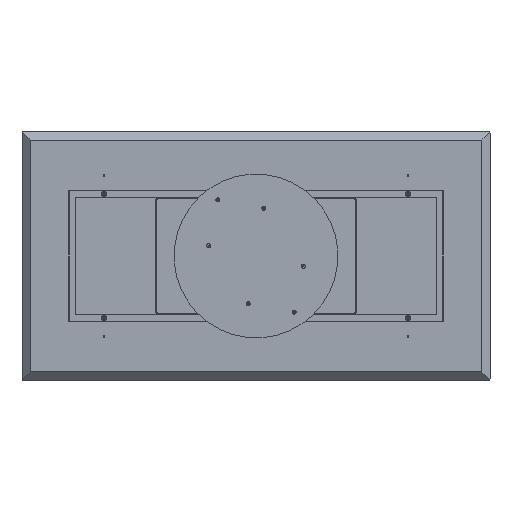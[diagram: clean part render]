
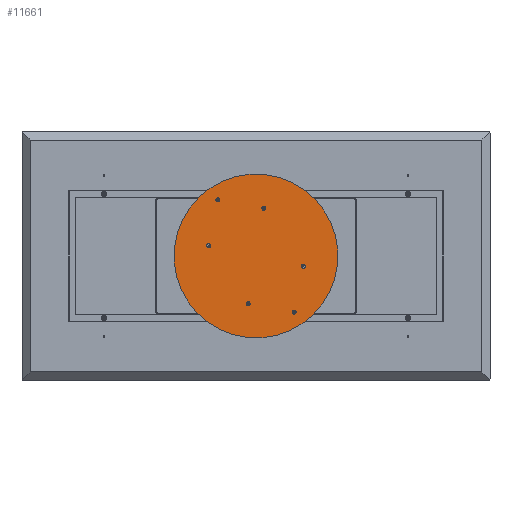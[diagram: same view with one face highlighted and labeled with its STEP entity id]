
A CAD part, front view. The second image highlights one B-rep face of the part: STEP entity #11661.
In plain terms, the highlighted planar face has unit normal (0, -1, 0).
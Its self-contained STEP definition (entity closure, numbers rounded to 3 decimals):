
#40 = EDGE_CURVE ( 'NONE', #15754, #18380, #775, .T. ) ;
#171 = VERTEX_POINT ( 'NONE', #12343 ) ;
#199 = CIRCLE ( 'NONE', #6948, 8.65 ) ;
#293 = AXIS2_PLACEMENT_3D ( 'NONE', #14947, #7742, #20213 ) ;
#392 = DIRECTION ( 'NONE',  ( 0., 0., -1. ) ) ;
#427 = CARTESIAN_POINT ( 'NONE',  ( 0., 0., -350. ) ) ;
#715 = CIRCLE ( 'NONE', #13502, 8.65 ) ;
#775 = CIRCLE ( 'NONE', #22922, 8.65 ) ;
#1177 = AXIS2_PLACEMENT_3D ( 'NONE', #17048, #20440, #6066 ) ;
#1255 = CARTESIAN_POINT ( 'NONE',  ( 150., 0., -142.5 ) ) ;
#1740 = CARTESIAN_POINT ( 'NONE',  ( 150., 0., 151.15 ) ) ;
#1793 = EDGE_CURVE ( 'NONE', #8214, #8496, #8999, .T. ) ;
#1918 = VERTEX_POINT ( 'NONE', #19746 ) ;
#2692 = CARTESIAN_POINT ( 'NONE',  ( 150., 0., 133.85 ) ) ;
#2752 = ORIENTED_EDGE ( 'NONE', *, *, #15379, .F. ) ;
#2958 = EDGE_CURVE ( 'NONE', #18380, #15754, #12445, .T. ) ;
#3081 = EDGE_CURVE ( 'NONE', #14695, #19115, #7505, .T. ) ;
#3120 = DIRECTION ( 'NONE',  ( 0., 1., 0. ) ) ;
#3240 = EDGE_CURVE ( 'NONE', #8496, #8214, #14356, .T. ) ;
#3368 = ORIENTED_EDGE ( 'NONE', *, *, #3081, .F. ) ;
#3788 = CARTESIAN_POINT ( 'NONE',  ( -290., 0., 0. ) ) ;
#3811 = DIRECTION ( 'NONE',  ( 0., 0., -1. ) ) ;
#4143 = VERTEX_POINT ( 'NONE', #13857 ) ;
#4350 = EDGE_LOOP ( 'NONE', ( #14956, #19761 ) ) ;
#4399 = CARTESIAN_POINT ( 'NONE',  ( 0., 0., 0. ) ) ;
#4909 = VERTEX_POINT ( 'NONE', #13005 ) ;
#5063 = AXIS2_PLACEMENT_3D ( 'NONE', #8912, #10468, #19532 ) ;
#5520 = DIRECTION ( 'NONE',  ( 0., -1., 0. ) ) ;
#5680 = EDGE_CURVE ( 'NONE', #4143, #15604, #15214, .T. ) ;
#5731 = CARTESIAN_POINT ( 'NONE',  ( -150., 0., -142.5 ) ) ;
#5799 = AXIS2_PLACEMENT_3D ( 'NONE', #7995, #20366, #16615 ) ;
#5816 = CARTESIAN_POINT ( 'NONE',  ( -150., 0., 142.5 ) ) ;
#6066 = DIRECTION ( 'NONE',  ( 0., 0., -1. ) ) ;
#6497 = ORIENTED_EDGE ( 'NONE', *, *, #21303, .F. ) ;
#6505 = VERTEX_POINT ( 'NONE', #7099 ) ;
#6521 = AXIS2_PLACEMENT_3D ( 'NONE', #3788, #20168, #392 ) ;
#6587 = CIRCLE ( 'NONE', #23139, 8.65 ) ;
#6655 = DIRECTION ( 'NONE',  ( 0., 0., -1. ) ) ;
#6680 = CARTESIAN_POINT ( 'NONE',  ( -290., 0., -8.65 ) ) ;
#6911 = EDGE_LOOP ( 'NONE', ( #22819, #11421 ) ) ;
#6948 = AXIS2_PLACEMENT_3D ( 'NONE', #5731, #9400, #7633 ) ;
#7099 = CARTESIAN_POINT ( 'NONE',  ( -150., 0., -133.85 ) ) ;
#7119 = CARTESIAN_POINT ( 'NONE',  ( 0., 0., 0. ) ) ;
#7155 = EDGE_LOOP ( 'NONE', ( #2752, #3368 ) ) ;
#7305 = DIRECTION ( 'NONE',  ( 0., 0., -1. ) ) ;
#7505 = CIRCLE ( 'NONE', #8609, 8.65 ) ;
#7633 = DIRECTION ( 'NONE',  ( 0., 0., -1. ) ) ;
#7742 = DIRECTION ( 'NONE',  ( 0., -1., 0. ) ) ;
#7995 = CARTESIAN_POINT ( 'NONE',  ( 290., 0., 0. ) ) ;
#8214 = VERTEX_POINT ( 'NONE', #427 ) ;
#8220 = DIRECTION ( 'NONE',  ( 0., 0., -1. ) ) ;
#8262 = EDGE_LOOP ( 'NONE', ( #20538, #15931 ) ) ;
#8406 = ORIENTED_EDGE ( 'NONE', *, *, #18573, .F. ) ;
#8421 = DIRECTION ( 'NONE',  ( 0., -1., 0. ) ) ;
#8496 = VERTEX_POINT ( 'NONE', #19057 ) ;
#8609 = AXIS2_PLACEMENT_3D ( 'NONE', #5816, #11255, #3811 ) ;
#8796 = DIRECTION ( 'NONE',  ( 0., 0., -1. ) ) ;
#8874 = FACE_BOUND ( 'NONE', #4350, .T. ) ;
#8912 = CARTESIAN_POINT ( 'NONE',  ( 150., 0., -142.5 ) ) ;
#8999 = CIRCLE ( 'NONE', #18804, 350. ) ;
#9361 = CARTESIAN_POINT ( 'NONE',  ( -150., 0., -151.15 ) ) ;
#9400 = DIRECTION ( 'NONE',  ( 0., -1., 0. ) ) ;
#9710 = DIRECTION ( 'NONE',  ( 0., 0., 1. ) ) ;
#9891 = DIRECTION ( 'NONE',  ( 0., -1., 0. ) ) ;
#9960 = CIRCLE ( 'NONE', #5799, 8.65 ) ;
#10316 = FACE_BOUND ( 'NONE', #8262, .T. ) ;
#10468 = DIRECTION ( 'NONE',  ( 0., -1., 0. ) ) ;
#11255 = DIRECTION ( 'NONE',  ( 0., -1., 0. ) ) ;
#11421 = ORIENTED_EDGE ( 'NONE', *, *, #5680, .F. ) ;
#11661 = ADVANCED_FACE ( 'NONE', ( #21604, #14204, #17858, #8874, #10316, #12547, #15963 ), #12089, .F. ) ;
#11959 = CARTESIAN_POINT ( 'NONE',  ( 290., 0., 0. ) ) ;
#12071 = DIRECTION ( 'NONE',  ( 0., -1., 0. ) ) ;
#12089 = PLANE ( 'NONE',  #19714 ) ;
#12184 = AXIS2_PLACEMENT_3D ( 'NONE', #19791, #5520, #7305 ) ;
#12332 = EDGE_CURVE ( 'NONE', #4909, #21975, #9960, .T. ) ;
#12343 = CARTESIAN_POINT ( 'NONE',  ( 150., 0., -151.15 ) ) ;
#12445 = CIRCLE ( 'NONE', #1177, 8.65 ) ;
#12516 = CARTESIAN_POINT ( 'NONE',  ( 290., 0., -8.65 ) ) ;
#12547 = FACE_BOUND ( 'NONE', #7155, .T. ) ;
#13005 = CARTESIAN_POINT ( 'NONE',  ( 290., 0., 8.65 ) ) ;
#13263 = EDGE_CURVE ( 'NONE', #21975, #4909, #6587, .T. ) ;
#13488 = DIRECTION ( 'NONE',  ( 0., 1., 0. ) ) ;
#13502 = AXIS2_PLACEMENT_3D ( 'NONE', #14409, #9891, #8220 ) ;
#13518 = AXIS2_PLACEMENT_3D ( 'NONE', #1255, #8421, #6655 ) ;
#13727 = CIRCLE ( 'NONE', #12184, 8.65 ) ;
#13857 = CARTESIAN_POINT ( 'NONE',  ( -290., 0., 8.65 ) ) ;
#14130 = EDGE_CURVE ( 'NONE', #1918, #171, #18024, .T. ) ;
#14204 = FACE_BOUND ( 'NONE', #22389, .T. ) ;
#14344 = VERTEX_POINT ( 'NONE', #9361 ) ;
#14356 = CIRCLE ( 'NONE', #21108, 350. ) ;
#14409 = CARTESIAN_POINT ( 'NONE',  ( -290., 0., 0. ) ) ;
#14695 = VERTEX_POINT ( 'NONE', #19018 ) ;
#14947 = CARTESIAN_POINT ( 'NONE',  ( -150., 0., -142.5 ) ) ;
#14956 = ORIENTED_EDGE ( 'NONE', *, *, #13263, .F. ) ;
#15214 = CIRCLE ( 'NONE', #6521, 8.65 ) ;
#15278 = CIRCLE ( 'NONE', #5063, 8.65 ) ;
#15379 = EDGE_CURVE ( 'NONE', #19115, #14695, #13727, .T. ) ;
#15604 = VERTEX_POINT ( 'NONE', #6680 ) ;
#15754 = VERTEX_POINT ( 'NONE', #1740 ) ;
#15931 = ORIENTED_EDGE ( 'NONE', *, *, #40, .F. ) ;
#15963 = FACE_OUTER_BOUND ( 'NONE', #19106, .T. ) ;
#16615 = DIRECTION ( 'NONE',  ( 0., 0., -1. ) ) ;
#16874 = CARTESIAN_POINT ( 'NONE',  ( -150., 0., 133.85 ) ) ;
#17046 = CARTESIAN_POINT ( 'NONE',  ( 150., 0., 142.5 ) ) ;
#17048 = CARTESIAN_POINT ( 'NONE',  ( 150., 0., 142.5 ) ) ;
#17200 = ORIENTED_EDGE ( 'NONE', *, *, #14130, .F. ) ;
#17770 = DIRECTION ( 'NONE',  ( 0., -1., 0. ) ) ;
#17858 = FACE_BOUND ( 'NONE', #19579, .T. ) ;
#18024 = CIRCLE ( 'NONE', #13518, 8.65 ) ;
#18380 = VERTEX_POINT ( 'NONE', #2692 ) ;
#18464 = EDGE_CURVE ( 'NONE', #171, #1918, #15278, .T. ) ;
#18573 = EDGE_CURVE ( 'NONE', #6505, #14344, #199, .T. ) ;
#18804 = AXIS2_PLACEMENT_3D ( 'NONE', #20686, #3120, #19168 ) ;
#19018 = CARTESIAN_POINT ( 'NONE',  ( -150., 0., 151.15 ) ) ;
#19057 = CARTESIAN_POINT ( 'NONE',  ( 0., 0., 350. ) ) ;
#19063 = ORIENTED_EDGE ( 'NONE', *, *, #3240, .F. ) ;
#19106 = EDGE_LOOP ( 'NONE', ( #21500, #19063 ) ) ;
#19109 = CIRCLE ( 'NONE', #293, 8.65 ) ;
#19115 = VERTEX_POINT ( 'NONE', #16874 ) ;
#19168 = DIRECTION ( 'NONE',  ( 0., 0., 1. ) ) ;
#19267 = DIRECTION ( 'NONE',  ( 0., 0., 1. ) ) ;
#19532 = DIRECTION ( 'NONE',  ( 0., 0., -1. ) ) ;
#19579 = EDGE_LOOP ( 'NONE', ( #21351, #17200 ) ) ;
#19714 = AXIS2_PLACEMENT_3D ( 'NONE', #7119, #23247, #19267 ) ;
#19746 = CARTESIAN_POINT ( 'NONE',  ( 150., 0., -133.85 ) ) ;
#19761 = ORIENTED_EDGE ( 'NONE', *, *, #12332, .F. ) ;
#19791 = CARTESIAN_POINT ( 'NONE',  ( -150., 0., 142.5 ) ) ;
#20168 = DIRECTION ( 'NONE',  ( 0., -1., 0. ) ) ;
#20213 = DIRECTION ( 'NONE',  ( 0., 0., -1. ) ) ;
#20366 = DIRECTION ( 'NONE',  ( 0., -1., 0. ) ) ;
#20440 = DIRECTION ( 'NONE',  ( 0., -1., 0. ) ) ;
#20538 = ORIENTED_EDGE ( 'NONE', *, *, #2958, .F. ) ;
#20686 = CARTESIAN_POINT ( 'NONE',  ( 0., 0., 0. ) ) ;
#20998 = DIRECTION ( 'NONE',  ( 0., 0., -1. ) ) ;
#21108 = AXIS2_PLACEMENT_3D ( 'NONE', #4399, #13488, #9710 ) ;
#21303 = EDGE_CURVE ( 'NONE', #14344, #6505, #19109, .T. ) ;
#21351 = ORIENTED_EDGE ( 'NONE', *, *, #18464, .F. ) ;
#21500 = ORIENTED_EDGE ( 'NONE', *, *, #1793, .F. ) ;
#21604 = FACE_BOUND ( 'NONE', #6911, .T. ) ;
#21975 = VERTEX_POINT ( 'NONE', #12516 ) ;
#21987 = EDGE_CURVE ( 'NONE', #15604, #4143, #715, .T. ) ;
#22389 = EDGE_LOOP ( 'NONE', ( #6497, #8406 ) ) ;
#22819 = ORIENTED_EDGE ( 'NONE', *, *, #21987, .F. ) ;
#22922 = AXIS2_PLACEMENT_3D ( 'NONE', #17046, #17770, #8796 ) ;
#23139 = AXIS2_PLACEMENT_3D ( 'NONE', #11959, #12071, #20998 ) ;
#23247 = DIRECTION ( 'NONE',  ( 0., 1., 0. ) ) ;
